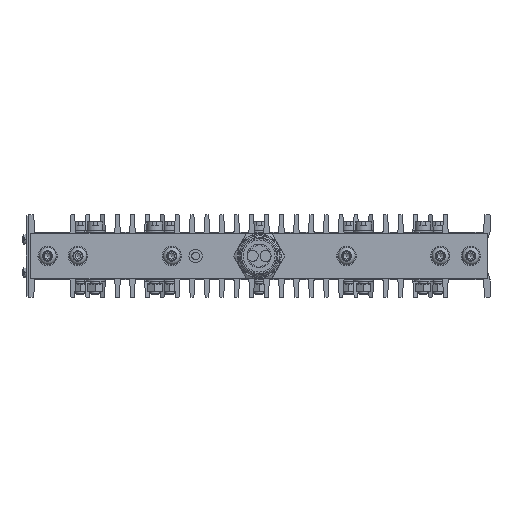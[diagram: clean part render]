
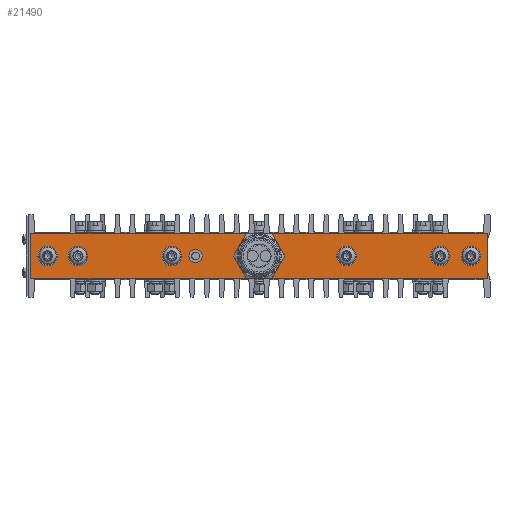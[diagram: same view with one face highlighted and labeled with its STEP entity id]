
A CAD part, front view. The second image highlights one B-rep face of the part: STEP entity #21490.
In plain terms, the highlighted planar face has unit normal (0, -1, 0).
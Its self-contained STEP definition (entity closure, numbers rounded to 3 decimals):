
#1141=FACE_BOUND($,#3862,.T.);
#1142=FACE_BOUND($,#3863,.T.);
#1143=FACE_BOUND($,#3864,.T.);
#1144=FACE_BOUND($,#3865,.T.);
#1145=FACE_BOUND($,#3866,.T.);
#1146=FACE_BOUND($,#3867,.T.);
#1147=FACE_BOUND($,#3868,.T.);
#1148=FACE_BOUND($,#3869,.T.);
#1149=FACE_BOUND($,#3870,.T.);
#1700=PLANE($,#23166);
#3862=EDGE_LOOP($,(#15006));
#3863=EDGE_LOOP($,(#15007));
#3864=EDGE_LOOP($,(#15008));
#3865=EDGE_LOOP($,(#15009));
#3866=EDGE_LOOP($,(#15010));
#3867=EDGE_LOOP($,(#15011));
#3868=EDGE_LOOP($,(#15012));
#3869=EDGE_LOOP($,(#15013,#15014,#15015,#15016));
#3870=EDGE_LOOP($,(#15017));
#5271=LINE($,#33446,#6511);
#5272=LINE($,#33448,#6512);
#5273=LINE($,#33450,#6513);
#5274=LINE($,#33451,#6514);
#6511=VECTOR($,#26476,248.);
#6512=VECTOR($,#26477,25.);
#6513=VECTOR($,#26478,248.);
#6514=VECTOR($,#26479,25.);
#7938=CIRCLE($,#23165,12.);
#7939=CIRCLE($,#23167,3.625);
#7940=CIRCLE($,#23168,5.25);
#7941=CIRCLE($,#23169,5.25);
#7942=CIRCLE($,#23170,5.25);
#7943=CIRCLE($,#23171,5.25);
#7944=CIRCLE($,#23172,5.25);
#7945=CIRCLE($,#23173,5.25);
#9158=VERTEX_POINT($,#33427);
#9159=VERTEX_POINT($,#33430);
#9160=VERTEX_POINT($,#33432);
#9161=VERTEX_POINT($,#33434);
#9162=VERTEX_POINT($,#33436);
#9163=VERTEX_POINT($,#33438);
#9164=VERTEX_POINT($,#33440);
#9165=VERTEX_POINT($,#33442);
#9166=VERTEX_POINT($,#33444);
#9167=VERTEX_POINT($,#33445);
#9168=VERTEX_POINT($,#33447);
#9169=VERTEX_POINT($,#33449);
#11427=EDGE_CURVE($,#9158,#9158,#7938,.T.);
#11428=EDGE_CURVE($,#9159,#9159,#7939,.T.);
#11429=EDGE_CURVE($,#9160,#9160,#7940,.T.);
#11430=EDGE_CURVE($,#9161,#9161,#7941,.T.);
#11431=EDGE_CURVE($,#9162,#9162,#7942,.T.);
#11432=EDGE_CURVE($,#9163,#9163,#7943,.T.);
#11433=EDGE_CURVE($,#9164,#9164,#7944,.T.);
#11434=EDGE_CURVE($,#9165,#9165,#7945,.T.);
#11435=EDGE_CURVE($,#9166,#9167,#5271,.T.);
#11436=EDGE_CURVE($,#9167,#9168,#5272,.T.);
#11437=EDGE_CURVE($,#9168,#9169,#5273,.T.);
#11438=EDGE_CURVE($,#9169,#9166,#5274,.T.);
#15006=ORIENTED_EDGE($,*,*,#11428,.T.);
#15007=ORIENTED_EDGE($,*,*,#11429,.T.);
#15008=ORIENTED_EDGE($,*,*,#11430,.T.);
#15009=ORIENTED_EDGE($,*,*,#11431,.T.);
#15010=ORIENTED_EDGE($,*,*,#11432,.T.);
#15011=ORIENTED_EDGE($,*,*,#11433,.T.);
#15012=ORIENTED_EDGE($,*,*,#11434,.T.);
#15013=ORIENTED_EDGE($,*,*,#11435,.T.);
#15014=ORIENTED_EDGE($,*,*,#11436,.T.);
#15015=ORIENTED_EDGE($,*,*,#11437,.T.);
#15016=ORIENTED_EDGE($,*,*,#11438,.T.);
#15017=ORIENTED_EDGE($,*,*,#11427,.T.);
#21490=ADVANCED_FACE($,(#1141,#1142,#1143,#1144,#1145,#1146,#1147,#1148,
#1149),#1700,.F.);
#23165=AXIS2_PLACEMENT_3D($,#33428,#26458,#26459);
#23166=AXIS2_PLACEMENT_3D($,#33429,#26460,#26461);
#23167=AXIS2_PLACEMENT_3D($,#33431,#26462,#26463);
#23168=AXIS2_PLACEMENT_3D($,#33433,#26464,#26465);
#23169=AXIS2_PLACEMENT_3D($,#33435,#26466,#26467);
#23170=AXIS2_PLACEMENT_3D($,#33437,#26468,#26469);
#23171=AXIS2_PLACEMENT_3D($,#33439,#26470,#26471);
#23172=AXIS2_PLACEMENT_3D($,#33441,#26472,#26473);
#23173=AXIS2_PLACEMENT_3D($,#33443,#26474,#26475);
#26458=DIRECTION('center_axis',(0.,1.,0.));
#26459=DIRECTION('ref_axis',(1.,0.,0.));
#26460=DIRECTION('center_axis',(0.,1.,0.));
#26461=DIRECTION('ref_axis',(0.,0.,1.));
#26462=DIRECTION('center_axis',(0.,1.,0.));
#26463=DIRECTION('ref_axis',(1.,0.,0.));
#26464=DIRECTION('center_axis',(0.,1.,0.));
#26465=DIRECTION('ref_axis',(-1.,0.,0.));
#26466=DIRECTION('center_axis',(0.,1.,0.));
#26467=DIRECTION('ref_axis',(-1.,0.,0.));
#26468=DIRECTION('center_axis',(0.,1.,0.));
#26469=DIRECTION('ref_axis',(-1.,0.,0.));
#26470=DIRECTION('center_axis',(0.,1.,0.));
#26471=DIRECTION('ref_axis',(1.,0.,0.));
#26472=DIRECTION('center_axis',(0.,1.,0.));
#26473=DIRECTION('ref_axis',(1.,0.,0.));
#26474=DIRECTION('center_axis',(0.,1.,0.));
#26475=DIRECTION('ref_axis',(1.,0.,0.));
#26476=DIRECTION($,(1.,0.,0.));
#26477=DIRECTION($,(0.,0.,1.));
#26478=DIRECTION($,(-1.,0.,0.));
#26479=DIRECTION($,(0.,0.,-1.));
#33427=CARTESIAN_POINT('',(-12.,-8.,0.));
#33428=CARTESIAN_POINT('Origin',(0.,-8.,0.));
#33429=CARTESIAN_POINT('Origin',(0.,-8.,0.));
#33430=CARTESIAN_POINT('',(-30.875,-8.,0.));
#33431=CARTESIAN_POINT('Origin',(-34.5,-8.,0.));
#33432=CARTESIAN_POINT('',(109.75,-8.,0.));
#33433=CARTESIAN_POINT('Origin',(115.,-8.,0.));
#33434=CARTESIAN_POINT('',(93.25,-8.,0.));
#33435=CARTESIAN_POINT('Origin',(98.5,-8.,0.));
#33436=CARTESIAN_POINT('',(42.25,-8.,0.));
#33437=CARTESIAN_POINT('Origin',(47.5,-8.,0.));
#33438=CARTESIAN_POINT('',(-109.75,-8.,0.));
#33439=CARTESIAN_POINT('Origin',(-115.,-8.,0.));
#33440=CARTESIAN_POINT('',(-93.25,-8.,0.));
#33441=CARTESIAN_POINT('Origin',(-98.5,-8.,0.));
#33442=CARTESIAN_POINT('',(-42.25,-8.,0.));
#33443=CARTESIAN_POINT('Origin',(-47.5,-8.,0.));
#33444=CARTESIAN_POINT('',(-124.,-8.,-12.5));
#33445=CARTESIAN_POINT('',(124.,-8.,-12.5));
#33446=CARTESIAN_POINT($,(-124.,-8.,-12.5));
#33447=CARTESIAN_POINT('',(124.,-8.,12.5));
#33448=CARTESIAN_POINT($,(124.,-8.,-12.5));
#33449=CARTESIAN_POINT('',(-124.,-8.,12.5));
#33450=CARTESIAN_POINT($,(124.,-8.,12.5));
#33451=CARTESIAN_POINT($,(-124.,-8.,12.5));
